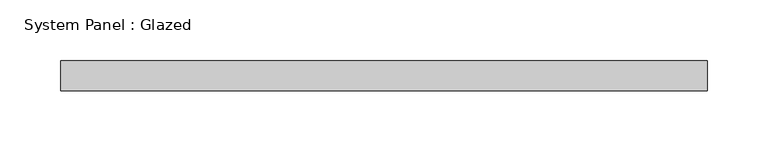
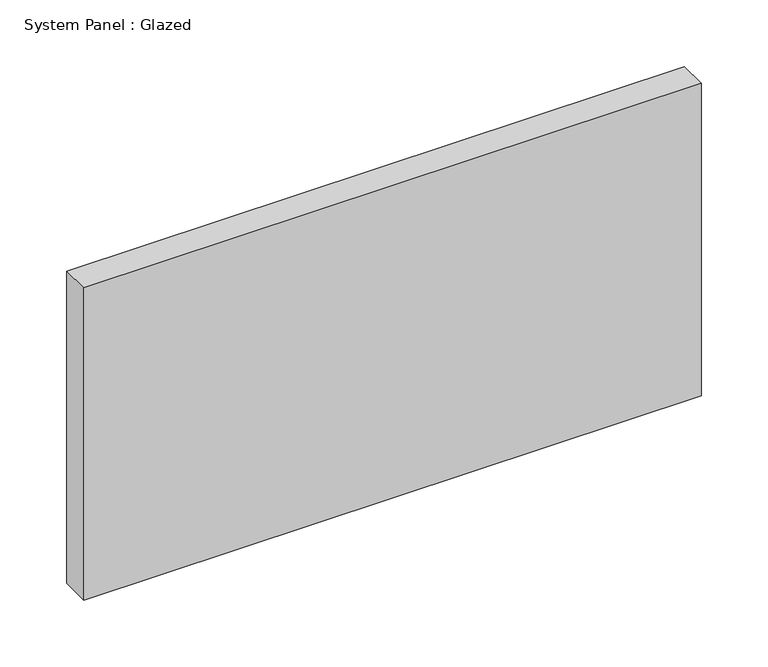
"""IFC4 building model written with IfcOpenShell, lengths in millimetres: plate geometry, System Panel : Glazed."""

from ifc_helpers import new_model, si_unit, origin, origin_with_axes, place, context, project, spatial, polyline, outline, extrude, source, transform, mapped, element, save


def system_panel_glazed_86d274d6(model_context):
    return source(origin(), model_context, "Body", "SweptSolid", [
        extrude(outline(polyline([(266.7200031, -12.5), (-266.7200031, -12.5), (-266.7200031, 12.5), (266.7200031, 12.5), (266.7200031, -12.5)])), origin_with_axes(), (0.0, 0.0, 1.0), 285.0),
    ])


if __name__ == "__main__":
    model = new_model("IFC4")
    model_context = context("Model", 3, world=origin())
    ifc_project = project(units=[si_unit("LENGTHUNIT", "METRE", prefix="MILLI")], contexts=[model_context])
    site = spatial("IfcSite", under=ifc_project)
    building = spatial("IfcBuilding", under=site)
    placement = place(None, origin())
    system_panel_glazed_shape = system_panel_glazed_86d274d6(model_context)
    element("IfcPlate", 1, ObjectType="System Panel : Glazed", at=placement, inside=building, context=model_context, shape_type="MappedRepresentation", body=[
        mapped(system_panel_glazed_shape, transform((0.0, 0.0, 0.0), x_axis=(1.0, 0.0, 0.0), y_axis=(0.0, 1.0, 0.0), z_axis=(0.0, 0.0, 1.0))),
    ])
    save(model, "model.ifc")
